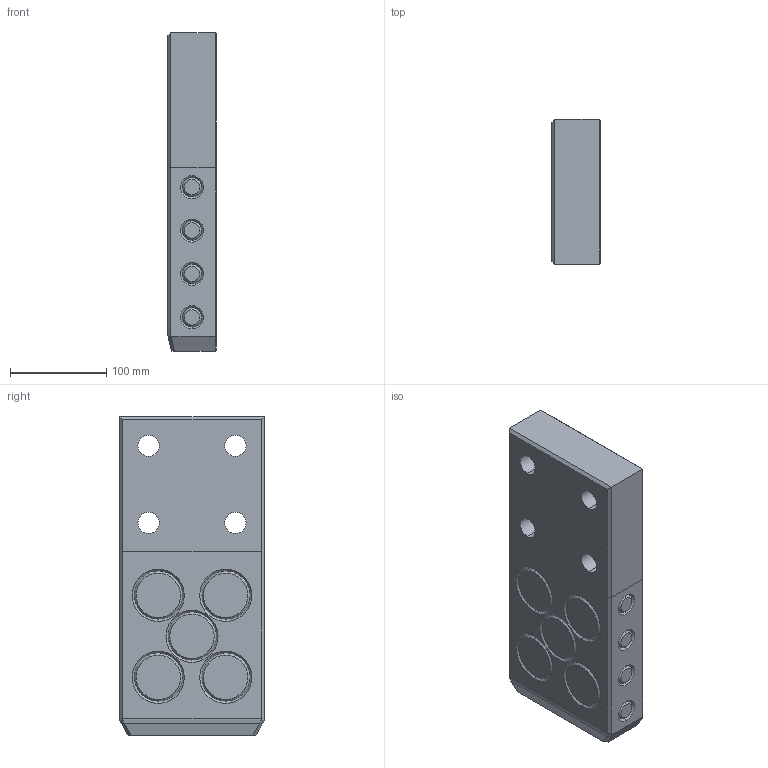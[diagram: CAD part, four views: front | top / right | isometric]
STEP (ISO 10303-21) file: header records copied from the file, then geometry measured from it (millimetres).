
FILE_DESCRIPTION((''),'2;1');
FILE_NAME('','2010-08-30T19:11:51+09:00',('misumi'),(''),'M/STEP i/f 1R2-14','CADmeister v5.1','');
FILE_SCHEMA(('AUTOMOTIVE_DESIGN'));
Length unit declared in the file: millimetre
Products named in the file (1): OGZ150-330
Bounding box: 50 x 150 x 330 mm (x, y, z)
Volume: 2338310 mm3; surface area: 160378.3 mm2
Topology: 1 solids, 1 shells, 118 faces, 252 edges, 154 vertices
Faces by surface type: cone 52, plane 43, cylinder 19, bspline 4
Entity records: 4244 total; most frequent: CARTESIAN_POINT 1581, DIRECTION 550, ORIENTED_EDGE 504, EDGE_CURVE 252, AXIS2_PLACEMENT_3D 213, VERTEX_POINT 154, EDGE_LOOP 144, LINE 124
